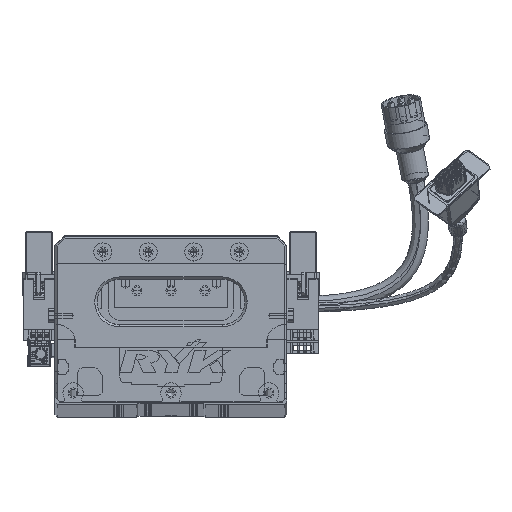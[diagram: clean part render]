
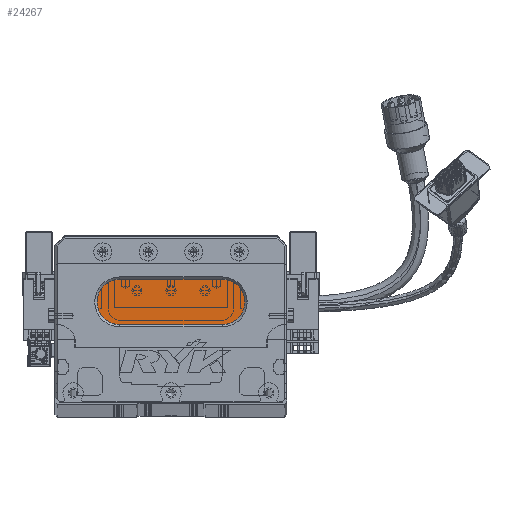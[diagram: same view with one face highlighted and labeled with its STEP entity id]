
A CAD part, top view. The second image highlights one B-rep face of the part: STEP entity #24267.
In plain terms, the highlighted planar face has unit normal (0, 0, 1) as drawn and (0, 0, -1) by its records, which use the part's own axes.
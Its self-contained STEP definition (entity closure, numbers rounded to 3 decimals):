
#2864 = PLANE ( 'NONE',  #21514 ) ;
#8505 = EDGE_CURVE ( 'NONE', #46548, #37774, #38070, .T. ) ;
#9483 = EDGE_CURVE ( 'NONE', #15576, #46548, #52702, .T. ) ;
#13636 = DIRECTION ( 'NONE',  ( 1., 0., 0. ) ) ;
#15576 = VERTEX_POINT ( 'NONE', #60753 ) ;
#20426 = VECTOR ( 'NONE', #13636, 1000. ) ;
#21460 = VERTEX_POINT ( 'NONE', #93664 ) ;
#21514 = AXIS2_PLACEMENT_3D ( 'NONE', #28463, #87617, #25853 ) ;
#24026 = DIRECTION ( 'NONE',  ( -1., 0., 0. ) ) ;
#24267 = ADVANCED_FACE ( 'NONE', ( #92680 ), #2864, .T. ) ;
#25853 = DIRECTION ( 'NONE',  ( -1., 0., 0. ) ) ;
#25925 = ORIENTED_EDGE ( 'NONE', *, *, #8505, .T. ) ;
#27217 = EDGE_LOOP ( 'NONE', ( #81846, #87614, #47261, #25925, #39233 ) ) ;
#27744 = DIRECTION ( 'NONE',  ( 0., 0., -1. ) ) ;
#28463 = CARTESIAN_POINT ( 'NONE',  ( 73.5, 44., 13. ) ) ;
#34148 = EDGE_CURVE ( 'NONE', #37774, #53597, #39869, .T. ) ;
#35949 = CARTESIAN_POINT ( 'NONE',  ( 73.5, 54., 13. ) ) ;
#37774 = VERTEX_POINT ( 'NONE', #53935 ) ;
#38049 = DIRECTION ( 'NONE',  ( 0., 0., -1. ) ) ;
#38070 = CIRCLE ( 'NONE', #49285, 10. ) ;
#39233 = ORIENTED_EDGE ( 'NONE', *, *, #34148, .T. ) ;
#39642 = AXIS2_PLACEMENT_3D ( 'NONE', #85981, #27744, #65083 ) ;
#39869 = LINE ( 'NONE', #35949, #20426 ) ;
#46548 = VERTEX_POINT ( 'NONE', #74773 ) ;
#47261 = ORIENTED_EDGE ( 'NONE', *, *, #9483, .T. ) ;
#49285 = AXIS2_PLACEMENT_3D ( 'NONE', #82576, #38049, #24026 ) ;
#52520 = CARTESIAN_POINT ( 'NONE',  ( 73.5, 54., 13. ) ) ;
#52702 = CIRCLE ( 'NONE', #68343, 10. ) ;
#53597 = VERTEX_POINT ( 'NONE', #52520 ) ;
#53935 = CARTESIAN_POINT ( 'NONE',  ( 28.5, 54., 13. ) ) ;
#55396 = CARTESIAN_POINT ( 'NONE',  ( 73.5, 34., 13. ) ) ;
#60753 = CARTESIAN_POINT ( 'NONE',  ( 28.5, 34., 13. ) ) ;
#62487 = VECTOR ( 'NONE', #76417, 1000. ) ;
#64038 = CARTESIAN_POINT ( 'NONE',  ( 28.5, 44., 13. ) ) ;
#65083 = DIRECTION ( 'NONE',  ( -1., 0., 0. ) ) ;
#68343 = AXIS2_PLACEMENT_3D ( 'NONE', #64038, #78608, #92547 ) ;
#69352 = CIRCLE ( 'NONE', #39642, 10. ) ;
#74773 = CARTESIAN_POINT ( 'NONE',  ( 18.5, 44., 13. ) ) ;
#76417 = DIRECTION ( 'NONE',  ( -1., 0., 0. ) ) ;
#78608 = DIRECTION ( 'NONE',  ( 0., 0., -1. ) ) ;
#81776 = LINE ( 'NONE', #55396, #62487 ) ;
#81846 = ORIENTED_EDGE ( 'NONE', *, *, #90066, .T. ) ;
#81855 = EDGE_CURVE ( 'NONE', #21460, #15576, #81776, .T. ) ;
#82576 = CARTESIAN_POINT ( 'NONE',  ( 28.5, 44., 13. ) ) ;
#85981 = CARTESIAN_POINT ( 'NONE',  ( 73.5, 44., 13. ) ) ;
#87614 = ORIENTED_EDGE ( 'NONE', *, *, #81855, .T. ) ;
#87617 = DIRECTION ( 'NONE',  ( 0., 0., -1. ) ) ;
#90066 = EDGE_CURVE ( 'NONE', #53597, #21460, #69352, .T. ) ;
#92547 = DIRECTION ( 'NONE',  ( -1., 0., 0. ) ) ;
#92680 = FACE_OUTER_BOUND ( 'NONE', #27217, .T. ) ;
#93664 = CARTESIAN_POINT ( 'NONE',  ( 73.5, 34., 13. ) ) ;
